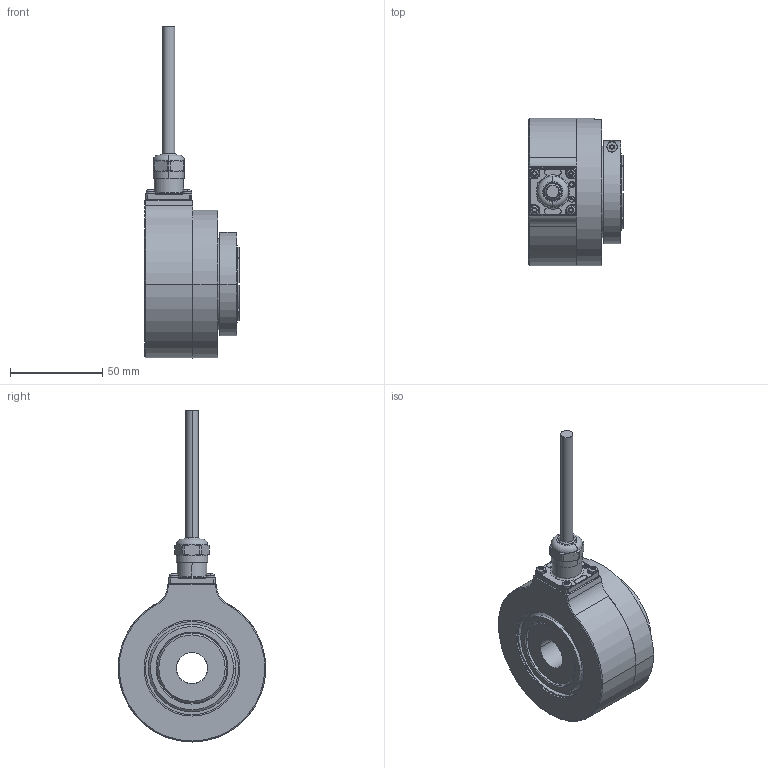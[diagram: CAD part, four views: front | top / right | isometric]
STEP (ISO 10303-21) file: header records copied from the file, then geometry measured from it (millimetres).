
FILE_DESCRIPTION (( 'STEP AP203' ), '1' );
FILE_NAME ('K80I.OXX.XXXXX.XH20817.6XR31.XXXX.step', '2025-12-09T09:32:59', ( '' ), ( '' ), 'SwSTEP 2.0', 'SolidWorks 2021', '' );
FILE_SCHEMA (( 'CONFIG_CONTROL_DESIGN' ));
Length unit declared in the file: millimetre
Products named in the file (1): K80I.OXX.XXXXX.XH20817.6XR31.XXXX
Bounding box: 51.2 x 80.15 x 180.07 mm (x, y, z)
Volume: 219292.3 mm3; surface area: 75234.7 mm2
Topology: 10 solids, 10 shells, 702 faces, 1811 edges, 1147 vertices
Faces by surface type: cylinder 287, plane 248, cone 68, torus 43, bspline 40, sphere 16
Entity records: 23707 total; most frequent: CARTESIAN_POINT 6485, DIRECTION 3670, ORIENTED_EDGE 3606, EDGE_CURVE 1803, AXIS2_PLACEMENT_3D 1416, VERTEX_POINT 1147, LINE 838, VECTOR 838
